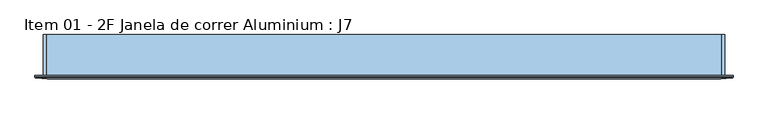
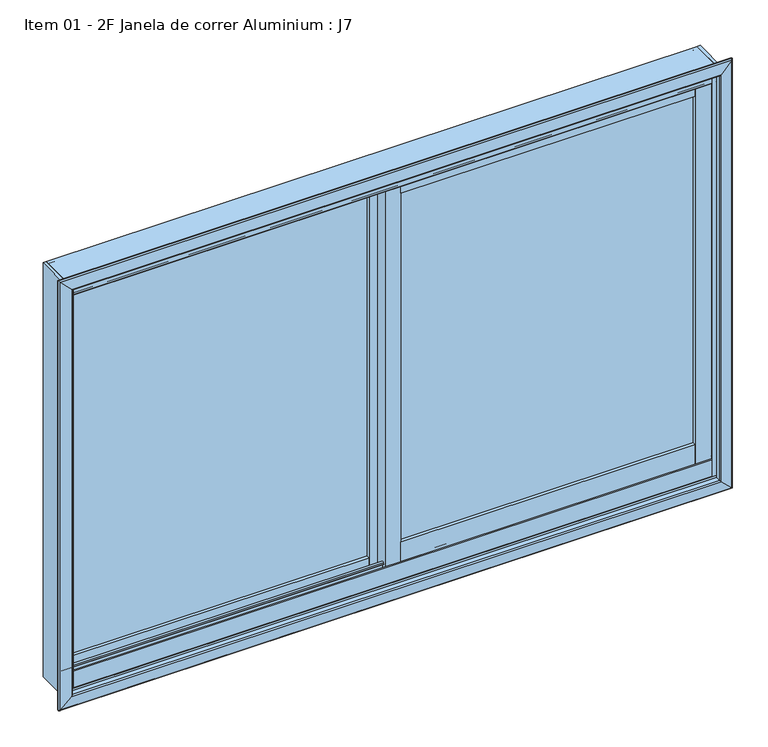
"""IFC4 building model written with IfcOpenShell, lengths in millimetres: window geometry, Item 01 - 2F Janela de correr Aluminium : J7."""

from ifc_helpers import new_model, si_unit, frame, origin, place, context, project, spatial, polyline, circle_curve, ellipse_curve, outline, extrude, source, transform, mapped, element, save
from ifc_brep_helpers import plane_surface, cylinder_surface, revolved_surface, advanced_brep


def item_01_2f_janela_de_correr_aluminium_j7_2dec2369(model_context):
    return source(origin(), model_context, "Body", "SolidModel", [
        extrude(outline(polyline([(-27.3998339, -10.3), (-27.3998339, -14.3), (-704.750983, -14.3), (-704.750983, -10.3), (-27.3998339, -10.3)])), frame((0.0, 0.0, 857.0), z_axis=(0.0, 0.0, 1.0), x_axis=(1.0, 0.0, 0.0)), (0.0, 0.0, 1.0), 880.5),
        extrude(outline(polyline([(27.2998339, -45.9), (27.2998339, -41.9), (698.868646, -41.9), (698.868646, -45.9), (27.2998339, -45.9)])), frame((0.0, 0.0, 895.5), z_axis=(0.0, 0.0, 1.0), x_axis=(1.0, 0.0, 0.0)), (0.0, 0.0, 1.0), 842.0),
        extrude(outline(polyline([(698.868646, -33.9), (698.868646, -53.9), (27.2998339, -53.9), (27.2998339, -33.9), (698.868646, -33.9)])), frame((0.0, 0.0, 847.9996573), z_axis=(0.0, 0.0, 1.0), x_axis=(1.0, 0.0, 0.0)), (0.0, 0.0, 1.0), 47.5003427),
        extrude(outline(polyline([(698.868646, -33.9), (698.868646, -53.9), (27.2998339, -53.9), (27.2998339, -33.9), (698.868646, -33.9)])), frame((0.0, 0.0, 1737.4996573), z_axis=(0.0, 0.0, 1.0), x_axis=(1.0, 0.0, 0.0)), (0.0, 0.0, 1.0), 34.5),
        extrude(outline(polyline([(-27.3998339, -2.3), (-27.3998339, -22.3), (-704.750983, -22.3), (-704.750983, -2.3), (-27.3998339, -2.3)])), frame((0.0, 0.0, 821.0), z_axis=(0.0, 0.0, 1.0), x_axis=(1.0, 0.0, 0.0)), (0.0, 0.0, 1.0), 36.0),
        extrude(outline(polyline([(-27.3998339, -2.3), (-27.3998339, -22.3), (-704.750983, -22.3), (-704.750983, -2.3), (-27.3998339, -2.3)])), frame((0.0, 0.0, 1737.5), z_axis=(0.0, 0.0, 1.0), x_axis=(1.0, 0.0, 0.0)), (0.0, 0.0, 1.0), 34.5),
        extrude(outline(polyline([(-704.750983, -22.3), (-743.0, -22.3), (-743.0, -2.3), (-704.750983, -2.3), (-704.750983, -22.3)])), frame((0.0, 0.0, 821.0), z_axis=(0.0, 0.0, 1.0), x_axis=(1.0, 0.0, 0.0)), (0.0, 0.0, 1.0), 951.0),
        extrude(outline(polyline([(-27.3998339, -22.3), (-27.3998339, -2.3), (7.6001661, -2.3), (7.6001661, -33.9), (27.2998339, -33.9), (27.2998339, -53.9), (-7.6001661, -53.9), (-7.6001661, -22.3), (-27.3998339, -22.3)])), frame((0.0, 0.0, 821.0), z_axis=(0.0, 0.0, 1.0), x_axis=(1.0, 0.0, 0.0)), (0.0, 0.0, 1.0), 951.0),
        extrude(outline(polyline([(743.0, -53.9), (698.868646, -53.9), (698.868646, -33.9), (743.0, -33.9), (743.0, -53.9)])), frame((0.0, 0.0, 821.0), z_axis=(0.0, 0.0, 1.0), x_axis=(1.0, 0.0, 0.0)), (0.0, 0.0, 1.0), 951.0),
        advanced_brep(
        [(-742.5998339, 8.5620965, 810.2470077), (-742.5998339, 8.5620965, 801.4000436), (-742.5998339, 13.600001, 801.4000436), (-742.5998339, 13.600001, 807.4000364), (-742.5998339, 14.9999993, 807.4000364), (-742.5998339, 15.0, 800.0), (-742.5998339, -75.0, 800.0), (-742.5998339, -75.0, 807.4000364), (-742.5998339, -73.6000017, 807.4000364), (-742.5998339, -73.6000017, 801.3999983), (-742.5998339, -68.6000077, 801.3999983), (-742.5998339, -68.6000077, 815.5000406), (-742.5998339, -66.9001002, 815.5000406), (-742.5998339, -66.9002002, 855.4959852), (-742.5998339, -63.9002108, 855.4999745), (-742.5998339, -63.9002039, 852.9999952), (-742.5998339, -65.5001025, 852.0762974), (-742.5998339, -65.4999102, 840.5017467), (-742.5998339, -64.5522917, 839.4937615), (-742.5998339, -42.5000392, 838.337999), (-742.5998339, -42.5000392, 852.496362), (-742.5998339, -44.7000484, 852.496362), (-742.5998339, -44.7000484, 848.6999865), (-742.5998339, -46.1007067, 848.6999865), (-742.5998339, -46.1007067, 852.4947997), (-742.5998339, -41.099933, 852.4947997), (-742.5998339, -41.099933, 838.2646991), (-742.5998339, -39.464205, 838.1789418), (-742.5998339, -35.731283, 834.861102), (-742.5998339, -32.3590937, 815.7367048), (-742.5998339, -29.9346709, 813.5917613), (-742.5998339, -14.4999651, 812.7828298), (-742.5998339, -14.4999651, 825.4891381), (-742.5998339, -9.4999947, 825.4999956), (-742.5998339, -9.4999711, 821.7000191), (-742.5998339, -10.8999694, 821.7000191), (-742.5998339, -10.8999694, 825.4963945), (-742.5998339, -13.0999825, 825.4963945), (-742.5998339, -13.0999825, 812.7095299), (-742.5998339, 7.2297593, 811.6448774), (742.5998339, 8.5620965, 810.2470077), (742.5998339, 8.5620965, 801.4000436), (742.5998339, 13.600001, 801.4000436), (742.5998339, 13.600001, 807.4000364), (742.5998339, 14.9999993, 807.4000364), (742.5998339, 15.0, 800.0), (742.5998339, -75.0, 800.0), (742.5998339, -75.0, 807.4000364), (742.5998339, -73.6000017, 807.4000364), (742.5998339, -73.6000017, 801.3999983), (742.5998339, -68.6000077, 801.3999983), (742.5998339, -68.6000077, 815.5000406), (742.5998339, -66.9001002, 815.5000406), (742.5998339, -66.9002002, 855.4959852), (742.5998339, -63.9002108, 855.4999745), (742.5998339, -63.9002039, 852.9999952), (742.5998339, -65.5001025, 852.0762974), (742.5998339, -65.4999102, 840.5017467), (742.5998339, -64.5522917, 839.4937615), (742.5998339, -42.5000392, 838.337999), (742.5998339, -42.5000392, 852.496362), (742.5998339, -44.7000484, 852.496362), (742.5998339, -44.7000484, 848.6999865), (742.5998339, -46.1007067, 848.6999865), (742.5998339, -46.1007067, 852.4947997), (742.5998339, -41.099933, 852.4947997), (742.5998339, -41.099933, 838.2646991), (742.5998339, -39.464205, 838.1789418), (742.5998339, -35.731283, 834.861102), (742.5998339, -32.3590937, 815.7367048), (742.5998339, -29.9346709, 813.5917613), (742.5998339, -14.4999651, 812.7828298), (742.5998339, -14.4999651, 825.4891381), (742.5998339, -9.4999947, 825.4999956), (742.5998339, -9.4999711, 821.7000191), (742.5998339, -10.8999694, 821.7000191), (742.5998339, -10.8999694, 825.4963945), (742.5998339, -13.0999825, 825.4963945), (742.5998339, -13.0999825, 812.7095299), (742.5998339, 7.2297593, 811.6448774)],
        [
            (0, 1),
            (1, 2),
            (2, 3),
            (3, 4),
            (4, 5),
            (5, 6),
            (6, 7),
            (7, 8),
            (8, 9),
            (9, 10),
            (10, 11),
            (11, 12),
            (12, 13),
            (13, 14, circle_curve(frame((-742.5998339, -65.4002082, 855.4999743), z_axis=(-1.0, 0.0, 0.0), x_axis=(0.0, 0.0, 1.0)), 1.4999974)),
            (14, 15),
            (15, 16),
            (16, 17),
            (17, 18, circle_curve(frame((-742.5998339, -64.4999552, 840.4923898), z_axis=(1.0, 0.0, 0.0), x_axis=(0.0, 0.0, 1.0)), 0.9999988)),
            (18, 19),
            (19, 20),
            (20, 21, circle_curve(frame((-742.5998339, -43.6000438, 852.496362), z_axis=(1.0, 0.0, 0.0), x_axis=(0.0, 0.0, 1.0)), 1.1000046)),
            (21, 22),
            (22, 23, circle_curve(frame((-742.5998339, -45.4003775, 848.6999865), z_axis=(-1.0, 0.0, 0.0), x_axis=(0.0, 0.0, 1.0)), 0.7003292)),
            (23, 24),
            (24, 25, circle_curve(frame((-742.5998339, -43.6003199, 852.4947997), z_axis=(-1.0, 0.0, 0.0), x_axis=(0.0, 0.0, 1.0)), 2.5003869)),
            (25, 26),
            (26, 27),
            (27, 28, circle_curve(frame((-742.5998339, -39.6736275, 834.1844326), z_axis=(-1.0, 0.0, 0.0), x_axis=(0.0, 0.0, 1.0)), 3.9999952)),
            (28, 29),
            (29, 30, circle_curve(frame((-742.5998339, -29.7985976, 816.188195), z_axis=(1.0, 0.0, 0.0), x_axis=(0.0, 0.0, 1.0)), 2.5999969)),
            (30, 31),
            (31, 32),
            (32, 33, circle_curve(frame((-742.5998339, -11.9999917, 825.4999955), z_axis=(-1.0, 0.0, 0.0), x_axis=(0.0, 0.0, 1.0)), 2.499997)),
            (33, 34),
            (34, 35, circle_curve(frame((-742.5998339, -10.1999703, 821.7000191), z_axis=(-1.0, 0.0, 0.0), x_axis=(0.0, 0.0, 1.0)), 0.6999992)),
            (35, 36),
            (36, 37, circle_curve(frame((-742.5998339, -11.9999759, 825.4963945), z_axis=(1.0, 0.0, 0.0), x_axis=(0.0, 0.0, 1.0)), 1.1000065)),
            (37, 38),
            (38, 39),
            (39, 0, circle_curve(frame((-742.5998339, 7.1626152, 810.2470077), z_axis=(-1.0, 0.0, 0.0), x_axis=(0.0, 0.0, 1.0)), 1.3994814)),
            (0, 40),
            (40, 41),
            (41, 1),
            (41, 42),
            (42, 2),
            (42, 43),
            (43, 3),
            (43, 44),
            (44, 4),
            (44, 45),
            (45, 5),
            (45, 46),
            (46, 6),
            (46, 47),
            (47, 7),
            (47, 48),
            (48, 8),
            (48, 49),
            (49, 9),
            (49, 50),
            (50, 10),
            (50, 51),
            (51, 11),
            (51, 52),
            (52, 12),
            (52, 53),
            (53, 13),
            (53, 54, circle_curve(frame((742.5998339, -65.4002082, 855.4999743), z_axis=(-1.0, 0.0, 0.0), x_axis=(0.0, 0.0, 1.0)), 1.4999974)),
            (54, 14),
            (54, 55),
            (55, 15),
            (55, 56),
            (56, 16),
            (56, 57),
            (57, 17),
            (57, 58, circle_curve(frame((742.5998339, -64.4999552, 840.4923898), z_axis=(1.0, 0.0, 0.0), x_axis=(0.0, 0.0, 1.0)), 0.9999988)),
            (58, 18),
            (58, 59),
            (59, 19),
            (59, 60),
            (60, 20),
            (60, 61, circle_curve(frame((742.5998339, -43.6000438, 852.496362), z_axis=(1.0, 0.0, 0.0), x_axis=(0.0, 0.0, 1.0)), 1.1000046)),
            (61, 21),
            (61, 62),
            (62, 22),
            (62, 63, circle_curve(frame((742.5998339, -45.4003775, 848.6999865), z_axis=(-1.0, 0.0, 0.0), x_axis=(0.0, 0.0, 1.0)), 0.7003292)),
            (63, 23),
            (63, 64),
            (64, 24),
            (64, 65, circle_curve(frame((742.5998339, -43.6003199, 852.4947997), z_axis=(-1.0, 0.0, 0.0), x_axis=(0.0, 0.0, 1.0)), 2.5003869)),
            (65, 25),
            (65, 66),
            (66, 26),
            (66, 67),
            (67, 27),
            (67, 68, circle_curve(frame((742.5998339, -39.6736275, 834.1844326), z_axis=(-1.0, 0.0, 0.0), x_axis=(0.0, 0.0, 1.0)), 3.9999952)),
            (68, 28),
            (68, 69),
            (69, 29),
            (69, 70, circle_curve(frame((742.5998339, -29.7985976, 816.188195), z_axis=(1.0, 0.0, 0.0), x_axis=(0.0, 0.0, 1.0)), 2.5999969)),
            (70, 30),
            (70, 71),
            (71, 31),
            (71, 72),
            (72, 32),
            (72, 73, circle_curve(frame((742.5998339, -11.9999917, 825.4999955), z_axis=(-1.0, 0.0, 0.0), x_axis=(0.0, 0.0, 1.0)), 2.499997)),
            (73, 33),
            (73, 74),
            (74, 34),
            (74, 75, circle_curve(frame((742.5998339, -10.1999703, 821.7000191), z_axis=(-1.0, 0.0, 0.0), x_axis=(0.0, 0.0, 1.0)), 0.6999992)),
            (75, 35),
            (75, 76),
            (76, 36),
            (76, 77, circle_curve(frame((742.5998339, -11.9999759, 825.4963945), z_axis=(1.0, 0.0, 0.0), x_axis=(0.0, 0.0, 1.0)), 1.1000065)),
            (77, 37),
            (77, 78),
            (78, 38),
            (78, 79),
            (79, 39),
            (79, 40, circle_curve(frame((742.5998339, 7.1626152, 810.2470077), z_axis=(-1.0, 0.0, 0.0), x_axis=(0.0, 0.0, 1.0)), 1.3994814)),
        ],
        [
            plane_surface(frame((-742.5998339, -75.0, 1800.0), z_axis=(-1.0, 0.0, 0.0), x_axis=(0.0, -1.0, 0.0))),
            plane_surface(frame((-742.5998339, 8.5620965, 810.2470077), z_axis=(0.0, 1.0, 0.0), x_axis=(1.0, 0.0, 0.0))),
            plane_surface(frame((-742.5998339, 8.5620965, 801.4000436), z_axis=(0.0, 0.0, 1.0), x_axis=(1.0, 0.0, 0.0))),
            plane_surface(frame((-742.5998339, 13.600001, 801.4000436), z_axis=(0.0, -1.0, 0.0), x_axis=(1.0, 0.0, 0.0))),
            plane_surface(frame((-742.5998339, 13.600001, 807.4000364), z_axis=(0.0, 0.0, 1.0), x_axis=(1.0, 0.0, 0.0))),
            plane_surface(frame((-742.5998339, 14.9999993, 807.4000364), z_axis=(0.0, 0.999999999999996, 9.01305508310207e-08), x_axis=(1.0, 0.0, 0.0))),
            plane_surface(frame((-742.5998339, 15.0, 800.0), z_axis=(0.0, 0.0, -1.0), x_axis=(1.0, 0.0, 0.0))),
            plane_surface(frame((-742.5998339, -75.0, 800.0), z_axis=(0.0, -1.0, 0.0), x_axis=(1.0, 0.0, 0.0))),
            plane_surface(frame((-742.5998339, -75.0, 807.4000364), z_axis=(0.0, 0.0, 1.0), x_axis=(1.0, 0.0, 0.0))),
            plane_surface(frame((-742.5998339, -73.6000017, 807.4000364), z_axis=(0.0, 1.0, 0.0), x_axis=(1.0, 0.0, 0.0))),
            plane_surface(frame((-742.5998339, -73.6000017, 801.3999983), z_axis=(0.0, 0.0, 1.0), x_axis=(1.0, 0.0, 0.0))),
            plane_surface(frame((-742.5998339, -68.6000077, 801.3999983), z_axis=(0.0, -1.0, 0.0), x_axis=(1.0, 0.0, 0.0))),
            plane_surface(frame((-742.5998339, -68.6000077, 815.5000406), z_axis=(0.0, 0.0, 1.0), x_axis=(1.0, 0.0, 0.0))),
            plane_surface(frame((-742.5998339, -66.9001002, 815.5000406), z_axis=(0.0, -0.999999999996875, -2.50000000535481e-06), x_axis=(1.0, 0.0, 0.0))),
            cylinder_surface(frame((-742.5998339, -65.4002082, 855.4999743), z_axis=(-1.0, 0.0, 0.0), x_axis=(0.0, 0.0, 1.0)), 1.4999974),
            plane_surface(frame((-742.5998339, -63.9002039, 855.4999927), z_axis=(0.0, 1.0, 0.0), x_axis=(1.0, 0.0, 0.0))),
            plane_surface(frame((-742.5998339, -63.9002039, 852.9999952), z_axis=(0.0, 0.4999983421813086, -0.8660263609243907), x_axis=(1.0, 0.0, 0.0))),
            plane_surface(frame((-742.5998339, -65.5001025, 852.0762974), z_axis=(0.0, 0.9999999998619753, 1.6614737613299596e-05), x_axis=(1.0, 0.0, 0.0))),
            revolved_surface(polyline([(742.5998339, -64.4999552, 841.4923885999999), (-742.5998339, -64.4999552, 841.4923885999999)]), (-742.5998339, -64.4999552, 840.4923898), (1.0, 0.0, 0.0)),
            plane_surface(frame((-742.5998339, -64.5523119, 839.493712), z_axis=(0.0, 0.05233606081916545, 0.9986295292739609), x_axis=(1.0, 0.0, 0.0))),
            plane_surface(frame((-742.5998339, -42.5000392, 838.337999), z_axis=(0.0, -1.0, 0.0), x_axis=(1.0, 0.0, 0.0))),
            revolved_surface(polyline([(742.5998339, -43.6000438, 853.5963666), (-742.5998339, -43.6000438, 853.5963666)]), (-742.5998339, -43.6000438, 852.496362), (1.0, 0.0, 0.0)),
            plane_surface(frame((-742.5998339, -44.7000484, 852.496362), z_axis=(0.0, 1.0, 0.0), x_axis=(1.0, 0.0, 0.0))),
            cylinder_surface(frame((-742.5998339, -45.4003775, 848.6999865), z_axis=(-1.0, 0.0, 0.0), x_axis=(0.0, 0.0, 1.0)), 0.7003292),
            plane_surface(frame((-742.5998339, -46.1007067, 848.6999865), z_axis=(0.0, -1.0, 0.0), x_axis=(1.0, 0.0, 0.0))),
            cylinder_surface(frame((-742.5998339, -43.6003199, 852.4947997), z_axis=(-1.0, 0.0, 0.0), x_axis=(0.0, 0.0, 1.0)), 2.5003869),
            plane_surface(frame((-742.5998339, -41.099933, 852.4947997), z_axis=(0.0, 1.0, 0.0), x_axis=(1.0, 0.0, 0.0))),
            plane_surface(frame((-742.5998339, -41.099933, 838.2646991), z_axis=(0.0, 0.05235569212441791, 0.998628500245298), x_axis=(1.0, 0.0, 0.0))),
            cylinder_surface(frame((-742.5998339, -39.6736275, 834.1844326), z_axis=(-1.0, 0.0, 0.0), x_axis=(0.0, 0.0, 1.0)), 3.9999952),
            plane_surface(frame((-742.5998339, -35.731283, 834.861102), z_axis=(0.0, 0.9848073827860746, 0.17365027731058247), x_axis=(1.0, 0.0, 0.0))),
            revolved_surface(polyline([(742.5998339, -29.7985976, 818.7881918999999), (-742.5998339, -29.7985976, 818.7881918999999)]), (-742.5998339, -29.7985976, 816.188195), (1.0, 0.0, 0.0)),
            plane_surface(frame((-742.5998339, -29.9346464, 813.5917288), z_axis=(0.0, 0.052336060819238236, 0.9986295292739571), x_axis=(1.0, 0.0, 0.0))),
            plane_surface(frame((-742.5998339, -14.4999651, 812.7828298), z_axis=(0.0, -1.0, 0.0), x_axis=(1.0, 0.0, 0.0))),
            cylinder_surface(frame((-742.5998339, -11.9999917, 825.4999955), z_axis=(-1.0, 0.0, 0.0), x_axis=(0.0, 0.0, 1.0)), 2.499997),
            plane_surface(frame((-742.5998339, -9.4999711, 825.5000145), z_axis=(0.0, 1.0, 0.0), x_axis=(1.0, 0.0, 0.0))),
            cylinder_surface(frame((-742.5998339, -10.1999703, 821.7000191), z_axis=(-1.0, 0.0, 0.0), x_axis=(0.0, 0.0, 1.0)), 0.6999992),
            plane_surface(frame((-742.5998339, -10.8999694, 821.7000191), z_axis=(0.0, -1.0, 0.0), x_axis=(1.0, 0.0, 0.0))),
            revolved_surface(polyline([(742.5998339, -11.9999759, 826.5964009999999), (-742.5998339, -11.9999759, 826.5964009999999)]), (-742.5998339, -11.9999759, 825.4963945), (1.0, 0.0, 0.0)),
            plane_surface(frame((-742.5998339, -13.0999825, 825.4963945), z_axis=(0.0, 1.0, 0.0), x_axis=(1.0, 0.0, 0.0))),
            plane_surface(frame((-742.5998339, -13.0999825, 812.7095299), z_axis=(0.0, 0.052297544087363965, 0.9986315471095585), x_axis=(1.0, 0.0, 0.0))),
            cylinder_surface(frame((-742.5998339, 7.1626152, 810.2470077), z_axis=(-1.0, 0.0, 0.0), x_axis=(0.0, 0.0, 1.0)), 1.3994814),
            plane_surface(frame((742.5998339, -75.0, 1800.0), z_axis=(1.0, 0.0, 0.0), x_axis=(0.0, -1.0, 0.0))),
        ],
        [
            (0, [[1, 2, 3, 4, 5, 6, 7, 8, 9, 10, 11, 12, 13, 14, 15, 16, 17, 18, 19, 20, 21, 22, 23, 24, 25, 26, 27, 28, 29, 30, 31, 32, 33, 34, 35, 36, 37, 38, 39, 40]]),
            (1, [[-1, 41, 42, 43]]),
            (2, [[-2, -43, 44, 45]]),
            (3, [[-3, -45, 46, 47]]),
            (4, [[-4, -47, 48, 49]]),
            (5, [[-5, -49, 50, 51]]),
            (6, [[-6, -51, 52, 53]]),
            (7, [[-7, -53, 54, 55]]),
            (8, [[-8, -55, 56, 57]]),
            (9, [[-9, -57, 58, 59]]),
            (10, [[-10, -59, 60, 61]]),
            (11, [[-11, -61, 62, 63]]),
            (12, [[-12, -63, 64, 65]]),
            (13, [[-13, -65, 66, 67]]),
            (14, [[-14, -67, 68, 69]]),
            (15, [[-15, -69, 70, 71]]),
            (16, [[-16, -71, 72, 73]]),
            (17, [[-17, -73, 74, 75]]),
            (18, [[-18, -75, 76, 77]]),
            (19, [[-19, -77, 78, 79]]),
            (20, [[-20, -79, 80, 81]]),
            (21, [[-21, -81, 82, 83]]),
            (22, [[-22, -83, 84, 85]]),
            (23, [[-23, -85, 86, 87]]),
            (24, [[-24, -87, 88, 89]]),
            (25, [[-25, -89, 90, 91]]),
            (26, [[-26, -91, 92, 93]]),
            (27, [[-27, -93, 94, 95]]),
            (28, [[-28, -95, 96, 97]]),
            (29, [[-29, -97, 98, 99]]),
            (30, [[-30, -99, 100, 101]]),
            (31, [[-31, -101, 102, 103]]),
            (32, [[-32, -103, 104, 105]]),
            (33, [[-33, -105, 106, 107]]),
            (34, [[-34, -107, 108, 109]]),
            (35, [[-35, -109, 110, 111]]),
            (36, [[-36, -111, 112, 113]]),
            (37, [[-37, -113, 114, 115]]),
            (38, [[-38, -115, 116, 117]]),
            (39, [[-39, -117, 118, 119]]),
            (40, [[-40, -119, 120, -41]]),
            (41, [[-120, -118, -116, -114, -112, -110, -108, -106, -104, -102, -100, -98, -96, -94, -92, -90, -88, -86, -84, -82, -80, -78, -76, -74, -72, -70, -68, -66, -64, -62, -60, -58, -56, -54, -52, -50, -48, -46, -44, -42]]),
        ],
    ),
        advanced_brep(
        [(-742.5998339, -66.8990741, 1765.5), (-742.5998339, -66.8990741, 1784.5), (-742.5998339, -68.5994745, 1784.5), (-742.5998339, -68.5994745, 1798.6), (-742.5998339, -73.5994745, 1798.6), (-742.5998339, -73.5994745, 1792.6), (-742.5998339, -74.9994395, 1792.6), (-742.5998339, -74.9994395, 1800.0), (-742.5998339, 15.0005605, 1800.0), (-742.5998339, 15.0005605, 1792.6), (-742.5998339, 13.6005455, 1792.6), (-742.5998339, 13.6005455, 1798.6), (-742.5998339, 8.6005455, 1798.6), (-742.5998339, 8.6005455, 1784.5), (-742.5998339, 6.9005605, 1784.5), (-742.5998339, 6.9005605, 1761.0), (-742.5998339, 5.5005605, 1760.0834849), (-742.5998339, 5.5005605, 1784.5), (-742.5998339, -13.0994395, 1784.5), (-742.5998339, -13.0994395, 1766.4999475), (-742.5998339, -10.8994395, 1766.4999475), (-742.5998339, -10.8994395, 1770.298754), (-742.5998339, -9.4986209, 1770.298754), (-742.5998339, -9.4986209, 1766.4999475), (-742.5998339, -14.5002581, 1766.4999475), (-742.5998339, -14.5002581, 1784.5), (-742.5998339, -41.0986209, 1784.5), (-742.5998339, -41.0986209, 1766.499981), (-742.5998339, -46.1002581, 1766.499981), (-742.5998339, -46.1002581, 1770.2997289), (-742.5998339, -44.6994395, 1770.2997289), (-742.5998339, -44.6994395, 1766.499981), (-742.5998339, -42.4994395, 1766.499981), (-742.5998339, -42.4994395, 1784.5), (-742.5998339, -65.4994049, 1784.5), (-742.5998339, -65.4994049, 1768.9237013), (-742.5998339, -63.8998049, 1768.0002013), (-742.5998339, -63.8998049, 1765.5), (742.5998339, -66.8990741, 1765.5), (742.5998339, -63.8998049, 1765.5), (742.5998339, -63.8998049, 1768.0002013), (742.5998339, -65.4994049, 1768.9237013), (742.5998339, -65.4994049, 1784.5), (742.5998339, -42.4994395, 1784.5), (742.5998339, -42.4994395, 1766.499981), (742.5998339, -44.6994395, 1766.499981), (742.5998339, -44.6994395, 1770.2997289), (742.5998339, -46.1002581, 1770.2997289), (742.5998339, -46.1002581, 1766.499981), (742.5998339, -41.0986209, 1766.499981), (742.5998339, -41.0986209, 1784.5), (742.5998339, -14.5002581, 1784.5), (742.5998339, -14.5002581, 1766.4999475), (742.5998339, -9.4986209, 1766.4999475), (742.5998339, -9.4986209, 1770.298754), (742.5998339, -10.8994395, 1770.298754), (742.5998339, -10.8994395, 1766.4999475), (742.5998339, -13.0994395, 1766.4999475), (742.5998339, -13.0994395, 1784.5), (742.5998339, 5.5005605, 1784.5), (742.5998339, 5.5005605, 1760.0834849), (742.5998339, 6.9005605, 1761.0), (742.5998339, 6.9005605, 1784.5), (742.5998339, 8.6005455, 1784.5), (742.5998339, 8.6005455, 1798.6), (742.5998339, 13.6005455, 1798.6), (742.5998339, 13.6005455, 1792.6), (742.5998339, 15.0005605, 1792.6), (742.5998339, 15.0005605, 1800.0), (742.5998339, -74.9994395, 1800.0), (742.5998339, -74.9994395, 1792.6), (742.5998339, -73.5994745, 1792.6), (742.5998339, -73.5994745, 1798.6), (742.5998339, -68.5994745, 1798.6), (742.5998339, -68.5994745, 1784.5), (742.5998339, -66.8990741, 1784.5)],
        [
            (0, 1),
            (1, 2),
            (2, 3),
            (3, 4),
            (4, 5),
            (5, 6),
            (6, 7),
            (7, 8),
            (8, 9),
            (9, 10),
            (10, 11),
            (11, 12),
            (12, 13),
            (13, 14),
            (14, 15),
            (15, 16, circle_curve(frame((-742.5998339, 5.9005605, 1761.0), z_axis=(-1.0, 0.0, 0.0), x_axis=(0.0, 0.0, 1.0)), 1.0)),
            (16, 17),
            (17, 18),
            (18, 19),
            (19, 20, circle_curve(frame((-742.5998339, -11.9994395, 1766.4999475), z_axis=(1.0, 0.0, 0.0), x_axis=(0.0, 0.0, 1.0)), 1.1)),
            (20, 21),
            (21, 22, circle_curve(frame((-742.5998339, -10.1990302, 1770.298754), z_axis=(-1.0, 0.0, 0.0), x_axis=(0.0, 0.0, 1.0)), 0.7004093)),
            (22, 23),
            (23, 24, circle_curve(frame((-742.5998339, -11.9994395, 1766.4999475), z_axis=(-1.0, 0.0, 0.0), x_axis=(0.0, 0.0, 1.0)), 2.5008186)),
            (24, 25),
            (25, 26),
            (26, 27),
            (27, 28, circle_curve(frame((-742.5998339, -43.5994395, 1766.499981), z_axis=(-1.0, 0.0, 0.0), x_axis=(0.0, 0.0, 1.0)), 2.5008186)),
            (28, 29),
            (29, 30, circle_curve(frame((-742.5998339, -45.3998488, 1770.2997289), z_axis=(-1.0, 0.0, 0.0), x_axis=(0.0, 0.0, 1.0)), 0.7004093)),
            (30, 31),
            (31, 32, circle_curve(frame((-742.5998339, -43.5994395, 1766.499981), z_axis=(1.0, 0.0, 0.0), x_axis=(0.0, 0.0, 1.0)), 1.1)),
            (32, 33),
            (33, 34),
            (34, 35),
            (35, 36),
            (36, 37),
            (37, 0, circle_curve(frame((-742.5998339, -65.3994395, 1765.5), z_axis=(-1.0, 0.0, 0.0), x_axis=(0.0, 0.0, 1.0)), 1.4996346)),
            (38, 39, circle_curve(frame((742.5998339, -65.3994395, 1765.5), z_axis=(1.0, 0.0, 0.0), x_axis=(0.0, 0.0, 1.0)), 1.4996346)),
            (39, 40),
            (40, 41),
            (41, 42),
            (42, 43),
            (43, 44),
            (44, 45, circle_curve(frame((742.5998339, -43.5994395, 1766.499981), z_axis=(-1.0, 0.0, 0.0), x_axis=(0.0, 0.0, 1.0)), 1.1)),
            (45, 46),
            (46, 47, circle_curve(frame((742.5998339, -45.3998488, 1770.2997289), z_axis=(1.0, 0.0, 0.0), x_axis=(0.0, 0.0, 1.0)), 0.7004093)),
            (47, 48),
            (48, 49, circle_curve(frame((742.5998339, -43.5994395, 1766.499981), z_axis=(1.0, 0.0, 0.0), x_axis=(0.0, 0.0, 1.0)), 2.5008186)),
            (49, 50),
            (50, 51),
            (51, 52),
            (52, 53, circle_curve(frame((742.5998339, -11.9994395, 1766.4999475), z_axis=(1.0, 0.0, 0.0), x_axis=(0.0, 0.0, 1.0)), 2.5008186)),
            (53, 54),
            (54, 55, circle_curve(frame((742.5998339, -10.1990302, 1770.298754), z_axis=(1.0, 0.0, 0.0), x_axis=(0.0, 0.0, 1.0)), 0.7004093)),
            (55, 56),
            (56, 57, circle_curve(frame((742.5998339, -11.9994395, 1766.4999475), z_axis=(-1.0, 0.0, 0.0), x_axis=(0.0, 0.0, 1.0)), 1.1)),
            (57, 58),
            (58, 59),
            (59, 60),
            (60, 61, circle_curve(frame((742.5998339, 5.9005605, 1761.0), z_axis=(1.0, 0.0, 0.0), x_axis=(0.0, 0.0, 1.0)), 1.0)),
            (61, 62),
            (62, 63),
            (63, 64),
            (64, 65),
            (65, 66),
            (66, 67),
            (67, 68),
            (68, 69),
            (69, 70),
            (70, 71),
            (71, 72),
            (72, 73),
            (73, 74),
            (74, 75),
            (75, 38),
            (0, 38),
            (75, 1),
            (74, 2),
            (73, 3),
            (72, 4),
            (71, 5),
            (70, 6),
            (69, 7),
            (68, 8),
            (67, 9),
            (66, 10),
            (65, 11),
            (64, 12),
            (63, 13),
            (62, 14),
            (61, 15),
            (60, 16),
            (59, 17),
            (58, 18),
            (57, 19),
            (56, 20),
            (55, 21),
            (54, 22),
            (53, 23),
            (52, 24),
            (51, 25),
            (50, 26),
            (49, 27),
            (48, 28),
            (47, 29),
            (46, 30),
            (45, 31),
            (44, 32),
            (43, 33),
            (42, 34),
            (41, 35),
            (40, 36),
            (39, 37),
        ],
        [
            plane_surface(frame((-742.5998339, -75.0, 1800.0), z_axis=(-1.0, 0.0, 0.0), x_axis=(0.0, -1.0, 0.0))),
            plane_surface(frame((742.5998339, -75.0, 1800.0), z_axis=(1.0, 0.0, 0.0), x_axis=(0.0, -1.0, 0.0))),
            plane_surface(frame((-742.5998339, -66.8990741, 1765.5), z_axis=(0.0, -1.0, 0.0), x_axis=(1.0, 0.0, 0.0))),
            plane_surface(frame((-742.5998339, -66.8990741, 1784.5), z_axis=(0.0, 0.0, -1.0), x_axis=(1.0, 0.0, 0.0))),
            plane_surface(frame((-742.5998339, -68.5994745, 1784.5), z_axis=(0.0, -1.0, 0.0), x_axis=(1.0, 0.0, 0.0))),
            plane_surface(frame((-742.5998339, -68.5994745, 1798.6), z_axis=(0.0, 0.0, -1.0), x_axis=(1.0, 0.0, 0.0))),
            plane_surface(frame((-742.5998339, -73.5994745, 1798.6), z_axis=(0.0, 1.0, 0.0), x_axis=(1.0, 0.0, 0.0))),
            plane_surface(frame((-742.5998339, -73.5994745, 1792.6), z_axis=(0.0, 0.0, -1.0), x_axis=(1.0, 0.0, 0.0))),
            plane_surface(frame((-742.5998339, -74.9994395, 1792.6), z_axis=(0.0, -1.0, 0.0), x_axis=(1.0, 0.0, 0.0))),
            plane_surface(frame((-742.5998339, -74.9994395, 1800.0), z_axis=(0.0, 0.0, 1.0), x_axis=(1.0, 0.0, 0.0))),
            plane_surface(frame((-742.5998339, 15.0005605, 1800.0), z_axis=(0.0, 1.0, 0.0), x_axis=(1.0, 0.0, 0.0))),
            plane_surface(frame((-742.5998339, 15.0005605, 1792.6), z_axis=(0.0, 0.0, -1.0), x_axis=(1.0, 0.0, 0.0))),
            plane_surface(frame((-742.5998339, 13.6005455, 1792.6), z_axis=(0.0, -1.0, 0.0), x_axis=(1.0, 0.0, 0.0))),
            plane_surface(frame((-742.5998339, 13.6005455, 1798.6), z_axis=(0.0, 0.0, -1.0), x_axis=(1.0, 0.0, 0.0))),
            plane_surface(frame((-742.5998339, 8.6005455, 1798.6), z_axis=(0.0, 1.0, 0.0), x_axis=(1.0, 0.0, 0.0))),
            plane_surface(frame((-742.5998339, 8.6005455, 1784.5), z_axis=(0.0, 0.0, -1.0), x_axis=(1.0, 0.0, 0.0))),
            plane_surface(frame((-742.5998339, 6.9005605, 1784.5), z_axis=(0.0, 1.0, 0.0), x_axis=(1.0, 0.0, 0.0))),
            cylinder_surface(frame((-742.5998339, 5.9005605, 1761.0), z_axis=(-1.0, 0.0, 0.0), x_axis=(0.0, 0.0, 1.0)), 1.0),
            plane_surface(frame((-742.5998339, 5.5005605, 1760.0834849), z_axis=(0.0, -1.0, 0.0), x_axis=(1.0, 0.0, 0.0))),
            plane_surface(frame((-742.5998339, 5.5005605, 1784.5), z_axis=(0.0, 0.0, -1.0), x_axis=(1.0, 0.0, 0.0))),
            plane_surface(frame((-742.5998339, -13.0994395, 1784.5), z_axis=(0.0, 1.0, 0.0), x_axis=(1.0, 0.0, 0.0))),
            revolved_surface(polyline([(742.5998339, -11.9994395, 1767.5999474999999), (-742.5998339, -11.9994395, 1767.5999474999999)]), (-742.5998339, -11.9994395, 1766.4999475), (1.0, 0.0, 0.0)),
            plane_surface(frame((-742.5998339, -10.8994395, 1766.4999475), z_axis=(0.0, -1.0, 0.0), x_axis=(1.0, 0.0, 0.0))),
            cylinder_surface(frame((-742.5998339, -10.1990302, 1770.298754), z_axis=(-1.0, 0.0, 0.0), x_axis=(0.0, 0.0, 1.0)), 0.7004093),
            plane_surface(frame((-742.5998339, -9.4986209, 1770.298754), z_axis=(0.0, 1.0, 0.0), x_axis=(1.0, 0.0, 0.0))),
            cylinder_surface(frame((-742.5998339, -11.9994395, 1766.4999475), z_axis=(-1.0, 0.0, 0.0), x_axis=(0.0, 0.0, 1.0)), 2.5008186),
            plane_surface(frame((-742.5998339, -14.5002581, 1766.4999475), z_axis=(0.0, -1.0, 0.0), x_axis=(1.0, 0.0, 0.0))),
            plane_surface(frame((-742.5998339, -14.5002581, 1784.5), z_axis=(0.0, 0.0, -1.0), x_axis=(1.0, 0.0, 0.0))),
            plane_surface(frame((-742.5998339, -41.0986209, 1784.5), z_axis=(0.0, 1.0, 0.0), x_axis=(1.0, 0.0, 0.0))),
            cylinder_surface(frame((-742.5998339, -43.5994395, 1766.499981), z_axis=(-1.0, 0.0, 0.0), x_axis=(0.0, 0.0, 1.0)), 2.5008186),
            plane_surface(frame((-742.5998339, -46.1002581, 1766.499981), z_axis=(0.0, -1.0, 0.0), x_axis=(1.0, 0.0, 0.0))),
            cylinder_surface(frame((-742.5998339, -45.3998488, 1770.2997289), z_axis=(-1.0, 0.0, 0.0), x_axis=(0.0, 0.0, 1.0)), 0.7004093),
            plane_surface(frame((-742.5998339, -44.6994395, 1770.2997289), z_axis=(0.0, 1.0, 0.0), x_axis=(1.0, 0.0, 0.0))),
            revolved_surface(polyline([(742.5998339, -43.5994395, 1767.5999809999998), (-742.5998339, -43.5994395, 1767.5999809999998)]), (-742.5998339, -43.5994395, 1766.499981), (1.0, 0.0, 0.0)),
            plane_surface(frame((-742.5998339, -42.4994395, 1766.499981), z_axis=(0.0, -1.0, 0.0), x_axis=(1.0, 0.0, 0.0))),
            plane_surface(frame((-742.5998339, -42.4994395, 1784.5), z_axis=(0.0, 0.0, -1.0), x_axis=(1.0, 0.0, 0.0))),
            plane_surface(frame((-742.5998339, -65.4994049, 1784.5), z_axis=(0.0, 1.0, 0.0), x_axis=(1.0, 0.0, 0.0))),
            plane_surface(frame((-742.5998339, -65.4994049, 1768.9237013), z_axis=(0.0, 0.49998802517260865, 0.8660323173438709), x_axis=(1.0, 0.0, 0.0))),
            plane_surface(frame((-742.5998339, -63.8998049, 1768.0002013), z_axis=(0.0, 1.0, 0.0), x_axis=(1.0, 0.0, 0.0))),
            cylinder_surface(frame((-742.5998339, -65.3994395, 1765.5), z_axis=(-1.0, 0.0, 0.0), x_axis=(0.0, 0.0, 1.0)), 1.4996346),
        ],
        [
            (0, [[1, 2, 3, 4, 5, 6, 7, 8, 9, 10, 11, 12, 13, 14, 15, 16, 17, 18, 19, 20, 21, 22, 23, 24, 25, 26, 27, 28, 29, 30, 31, 32, 33, 34, 35, 36, 37, 38]]),
            (1, [[39, 40, 41, 42, 43, 44, 45, 46, 47, 48, 49, 50, 51, 52, 53, 54, 55, 56, 57, 58, 59, 60, 61, 62, 63, 64, 65, 66, 67, 68, 69, 70, 71, 72, 73, 74, 75, 76]]),
            (2, [[-1, 77, -76, 78]]),
            (3, [[-2, -78, -75, 79]]),
            (4, [[-3, -79, -74, 80]]),
            (5, [[-4, -80, -73, 81]]),
            (6, [[-5, -81, -72, 82]]),
            (7, [[-6, -82, -71, 83]]),
            (8, [[-7, -83, -70, 84]]),
            (9, [[-8, -84, -69, 85]]),
            (10, [[-9, -85, -68, 86]]),
            (11, [[-10, -86, -67, 87]]),
            (12, [[-11, -87, -66, 88]]),
            (13, [[-12, -88, -65, 89]]),
            (14, [[-13, -89, -64, 90]]),
            (15, [[-14, -90, -63, 91]]),
            (16, [[-15, -91, -62, 92]]),
            (17, [[-16, -92, -61, 93]]),
            (18, [[-17, -93, -60, 94]]),
            (19, [[-18, -94, -59, 95]]),
            (20, [[-19, -95, -58, 96]]),
            (21, [[-20, -96, -57, 97]]),
            (22, [[-21, -97, -56, 98]]),
            (23, [[-22, -98, -55, 99]]),
            (24, [[-23, -99, -54, 100]]),
            (25, [[-24, -100, -53, 101]]),
            (26, [[-25, -101, -52, 102]]),
            (27, [[-26, -102, -51, 103]]),
            (28, [[-27, -103, -50, 104]]),
            (29, [[-28, -104, -49, 105]]),
            (30, [[-29, -105, -48, 106]]),
            (31, [[-30, -106, -47, 107]]),
            (32, [[-31, -107, -46, 108]]),
            (33, [[-32, -108, -45, 109]]),
            (34, [[-33, -109, -44, 110]]),
            (35, [[-34, -110, -43, 111]]),
            (36, [[-35, -111, -42, 112]]),
            (37, [[-36, -112, -41, 113]]),
            (38, [[-37, -113, -40, 114]]),
            (39, [[-38, -114, -39, -77]]),
        ],
    ),
        extrude(outline(polyline([(-750.0, -75.0), (-750.0, 15.0005605), (-742.5998339, 15.0005605), (-742.5998339, 8.6005605), (-729.5998339, 8.6005605), (-729.5998339, 7.2005603), (-742.5998339, 7.2005603), (-742.5998339, -67.1994395), (-729.5998339, -67.1994395), (-729.5998339, -68.5994395), (-742.5998339, -68.5994395), (-742.5998339, -75.0), (-750.0, -75.0)])), frame((0.0, 0.0, 800.0), z_axis=(0.0, 0.0, 1.0), x_axis=(1.0, 0.0, 0.0)), (0.0, 0.0, 1.0), 1000.0),
        extrude(outline(polyline([(750.0, -75.0), (742.5998339, -75.0), (742.5998339, -68.5994395), (729.5998339, -68.5994395), (729.5998339, -67.1994395), (742.5998339, -67.1994395), (742.5998339, 7.2005603), (729.5998339, 7.2005603), (729.5998339, 8.6005605), (742.5998339, 8.6005605), (742.5998339, 15.0005605), (750.0, 15.0005605), (750.0, -75.0)])), frame((0.0, 0.0, 800.0), z_axis=(0.0, 0.0, 1.0), x_axis=(1.0, 0.0, 0.0)), (0.0, 0.0, 1.0), 1000.0),
        advanced_brep(
        [(766.6179787, -80.8032791, 783.3820213), (741.6179953, -82.990685, 808.3820047), (-741.6179953, -82.990685, 808.3820047), (-766.6179787, -80.8032791, 783.3820213), (768.9000454, -78.301595, 781.0999546), (-768.9000454, -78.301595, 781.0999546), (768.9000454, -75.0, 781.0999546), (-768.9000454, -75.0, 781.0999546), (767.8000705, -78.312794, 782.1999295), (767.8000705, -75.0, 782.1999295), (-767.8000705, -75.0, 782.1999295), (-767.8000705, -78.312794, 782.1999295), (766.5220991, -79.7074657, 783.4779009), (-766.5220991, -79.7074657, 783.4779009), (741.5051608, -81.896355, 808.4948392), (-741.5051608, -81.896355, 808.4948392), (740.0000742, -80.5100572, 809.9999258), (-740.0000742, -80.5100572, 809.9999258), (740.0000742, -69.0002188, 809.9999258), (-740.0000742, -69.0002188, 809.9999258), (738.9000871, -80.5001999, 811.0999129), (738.9000871, -69.0002188, 811.0999129), (-738.9000871, -69.0002188, 811.0999129), (-738.9000871, -80.5001999, 811.0999129), (-741.6179953, -82.990685, 1791.6179953), (-766.6179787, -80.8032791, 1816.6179787), (-768.9000454, -78.301595, 1818.9000454), (-768.9000454, -75.0, 1818.9000454), (-767.8000705, -75.0, 1817.8000705), (-767.8000705, -78.312794, 1817.8000705), (-766.5220991, -79.7074657, 1816.5220991), (-741.5051608, -81.896355, 1791.5051608), (-740.0000742, -80.5100572, 1790.0000742), (-740.0000742, -69.0002188, 1790.0000742), (-738.9000871, -69.0002188, 1788.9000871), (-738.9000871, -80.5001999, 1788.9000871), (741.6179953, -82.990685, 1791.6179953), (766.6179787, -80.8032791, 1816.6179787), (768.9000454, -78.301595, 1818.9000454), (768.9000454, -75.0, 1818.9000454), (767.8000705, -75.0, 1817.8000705), (767.8000705, -78.312794, 1817.8000705), (766.5220991, -79.7074657, 1816.5220991), (741.5051608, -81.896355, 1791.5051608), (740.0000742, -80.5100572, 1790.0000742), (740.0000742, -69.0002188, 1790.0000742), (738.9000871, -69.0002188, 1788.9000871), (738.9000871, -80.5001999, 1788.9000871)],
        [
            (0, 1),
            (1, 2),
            (2, 3),
            (3, 0),
            (4, 0, ellipse_curve(frame((766.4000705, -78.312794, 783.5999295), z_axis=(-0.7071067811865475, 0.0, -0.7071067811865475), x_axis=(0.7071067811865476, 0.0, -0.7071067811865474)), 3.5355339, 2.5)),
            (3, 5, ellipse_curve(frame((-766.4000705, -78.312794, 783.5999295), z_axis=(0.7071067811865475, 0.0, -0.7071067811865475), x_axis=(0.7071067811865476, 0.0, 0.7071067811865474)), 3.5355339, 2.5)),
            (5, 4),
            (6, 4),
            (5, 7),
            (7, 6),
            (8, 9),
            (9, 10),
            (10, 11),
            (11, 8),
            (12, 8, ellipse_curve(frame((766.4000705, -78.312794, 783.5999295), z_axis=(0.7071067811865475, 0.0, 0.7071067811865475), x_axis=(-0.7071067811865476, 0.0, 0.7071067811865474)), 1.979899, 1.4)),
            (11, 13, ellipse_curve(frame((-766.4000705, -78.312794, 783.5999295), z_axis=(-0.7071067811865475, 0.0, 0.7071067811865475), x_axis=(-0.7071067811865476, 0.0, -0.7071067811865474)), 1.979899, 1.4)),
            (13, 12),
            (14, 12),
            (13, 15),
            (15, 14),
            (16, 14, ellipse_curve(frame((741.4000916, -80.5002514, 808.5999084), z_axis=(0.7071067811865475, 0.0, 0.7071067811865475), x_axis=(-0.7071067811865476, 0.0, 0.7071067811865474)), 1.9799721, 1.4000517)),
            (15, 17, ellipse_curve(frame((-741.4000916, -80.5002514, 808.5999084), z_axis=(-0.7071067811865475, 0.0, 0.7071067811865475), x_axis=(-0.7071067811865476, 0.0, -0.7071067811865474)), 1.9799721, 1.4000517)),
            (17, 16),
            (18, 16),
            (17, 19),
            (19, 18),
            (20, 21),
            (21, 22),
            (22, 23),
            (23, 20),
            (1, 20, ellipse_curve(frame((741.4000871, -80.5001999, 808.5999129), z_axis=(-0.7071067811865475, 0.0, -0.7071067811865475), x_axis=(0.7071067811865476, 0.0, -0.7071067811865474)), 3.5355339, 2.5)),
            (23, 2, ellipse_curve(frame((-741.4000871, -80.5001999, 808.5999129), z_axis=(0.7071067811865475, 0.0, -0.7071067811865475), x_axis=(0.7071067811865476, 0.0, 0.7071067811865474)), 3.5355339, 2.5)),
            (2, 24),
            (24, 25),
            (25, 3),
            (25, 26, ellipse_curve(frame((-766.4000705, -78.312794, 1816.4000705), z_axis=(-0.7071067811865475, 0.0, -0.7071067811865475), x_axis=(0.7071067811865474, 0.0, -0.7071067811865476)), 3.5355339, 2.5)),
            (26, 5),
            (26, 27),
            (27, 7),
            (10, 28),
            (28, 29),
            (29, 11),
            (29, 30, ellipse_curve(frame((-766.4000705, -78.312794, 1816.4000705), z_axis=(0.7071067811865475, 0.0, 0.7071067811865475), x_axis=(-0.7071067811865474, 0.0, 0.7071067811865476)), 1.979899, 1.4)),
            (30, 13),
            (30, 31),
            (31, 15),
            (31, 32, ellipse_curve(frame((-741.4000916, -80.5002514, 1791.4000916), z_axis=(0.7071067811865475, 0.0, 0.7071067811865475), x_axis=(-0.7071067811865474, 0.0, 0.7071067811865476)), 1.9799721, 1.4000517)),
            (32, 17),
            (32, 33),
            (33, 19),
            (22, 34),
            (34, 35),
            (35, 23),
            (35, 24, ellipse_curve(frame((-741.4000871, -80.5001999, 1791.4000871), z_axis=(-0.7071067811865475, 0.0, -0.7071067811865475), x_axis=(0.7071067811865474, 0.0, -0.7071067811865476)), 3.5355339, 2.5)),
            (24, 36),
            (36, 37),
            (37, 25),
            (37, 38, ellipse_curve(frame((766.4000705, -78.312794, 1816.4000705), z_axis=(-0.7071067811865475, 0.0, 0.7071067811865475), x_axis=(-0.7071067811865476, 0.0, -0.7071067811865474)), 3.5355339, 2.5)),
            (38, 26),
            (38, 39),
            (39, 27),
            (28, 40),
            (40, 41),
            (41, 29),
            (41, 42, ellipse_curve(frame((766.4000705, -78.312794, 1816.4000705), z_axis=(0.7071067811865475, 0.0, -0.7071067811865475), x_axis=(0.7071067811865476, 0.0, 0.7071067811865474)), 1.979899, 1.4)),
            (42, 30),
            (42, 43),
            (43, 31),
            (43, 44, ellipse_curve(frame((741.4000916, -80.5002514, 1791.4000916), z_axis=(0.7071067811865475, 0.0, -0.7071067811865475), x_axis=(0.7071067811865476, 0.0, 0.7071067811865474)), 1.9799721, 1.4000517)),
            (44, 32),
            (44, 45),
            (45, 33),
            (34, 46),
            (46, 47),
            (47, 35),
            (47, 36, ellipse_curve(frame((741.4000871, -80.5001999, 1791.4000871), z_axis=(-0.7071067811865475, 0.0, 0.7071067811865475), x_axis=(-0.7071067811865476, 0.0, -0.7071067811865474)), 3.5355339, 2.5)),
            (36, 1),
            (0, 37),
            (4, 38),
            (6, 39),
            (9, 40),
            (8, 41),
            (12, 42),
            (14, 43),
            (16, 44),
            (18, 45),
            (21, 46),
            (20, 47),
        ],
        [
            plane_surface(frame((741.6179953, -82.990685, 808.3820047), z_axis=(0.0, -0.9961940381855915, -0.08716328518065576), x_axis=(-1.0, 0.0, 0.0))),
            cylinder_surface(frame((750.0, -78.312794, 783.5999295), z_axis=(1.0, 0.0, 0.0), x_axis=(0.0, 0.0, 1.0)), 2.5),
            plane_surface(frame((768.9000454, -78.301595, 781.0999546), z_axis=(0.0, 0.0, -1.0), x_axis=(-1.0, 0.0, 0.0))),
            plane_surface(frame((767.8000705, -75.0, 782.1999295), z_axis=(0.0, 0.0, 1.0), x_axis=(-1.0, 0.0, 0.0))),
            revolved_surface(polyline([(-767.8000705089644, -78.312794, 784.9999295), (767.8000705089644, -78.312794, 784.9999295)]), (750.0, -78.312794, 783.5999295), (-1.0, 0.0, 0.0)),
            plane_surface(frame((766.5220991, -79.7074657, 783.4779009), z_axis=(0.0, 0.9961940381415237, 0.08716328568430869), x_axis=(-1.0, 0.0, 0.0))),
            revolved_surface(polyline([(-742.8001432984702, -80.5002514, 809.9999601), (742.8001432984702, -80.5002514, 809.9999601)]), (750.0, -80.5002514, 808.5999084), (-1.0, 0.0, 0.0)),
            plane_surface(frame((740.0000742, -80.5100572, 809.9999258), z_axis=(0.0, 0.0, -1.0), x_axis=(-1.0, 0.0, 0.0))),
            plane_surface(frame((738.9000871, -69.0002188, 811.0999129), z_axis=(0.0, 0.0, 1.0), x_axis=(-1.0, 0.0, 0.0))),
            cylinder_surface(frame((750.0, -80.5001999, 808.5999129), z_axis=(1.0, 0.0, 0.0), x_axis=(0.0, 0.0, 1.0)), 2.5),
            plane_surface(frame((-741.6179953, -82.990685, 808.3820047), z_axis=(-0.08716328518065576, -0.9961940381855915, 0.0), x_axis=(0.0, 0.0, 1.0))),
            cylinder_surface(frame((-766.4000705, -78.312794, 800.0), z_axis=(0.0, 0.0, -1.0), x_axis=(1.0, 0.0, 0.0)), 2.5),
            plane_surface(frame((-768.9000454, -78.301595, 781.0999546), z_axis=(-1.0, 0.0, 0.0), x_axis=(0.0, 0.0, 1.0))),
            plane_surface(frame((-767.8000705, -75.0, 782.1999295), z_axis=(1.0, 0.0, 0.0), x_axis=(0.0, 0.0, 1.0))),
            revolved_surface(polyline([(-765.0000705, -78.312794, 1817.8000705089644), (-765.0000705, -78.312794, 782.1999294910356)]), (-766.4000705, -78.312794, 800.0), (0.0, 0.0, 1.0)),
            plane_surface(frame((-766.5220991, -79.7074657, 783.4779009), z_axis=(0.08716328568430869, 0.9961940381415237, 0.0), x_axis=(0.0, 0.0, 1.0))),
            revolved_surface(polyline([(-740.0000399, -80.5002514, 1792.8001432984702), (-740.0000399, -80.5002514, 807.1998567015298)]), (-741.4000916, -80.5002514, 800.0), (0.0, 0.0, 1.0)),
            plane_surface(frame((-740.0000742, -80.5100572, 809.9999258), z_axis=(-1.0, 0.0, 0.0), x_axis=(0.0, 0.0, 1.0))),
            plane_surface(frame((-738.9000871, -69.0002188, 811.0999129), z_axis=(1.0, 0.0, 0.0), x_axis=(0.0, 0.0, 1.0))),
            cylinder_surface(frame((-741.4000871, -80.5001999, 800.0), z_axis=(0.0, 0.0, -1.0), x_axis=(1.0, 0.0, 0.0)), 2.5),
            plane_surface(frame((-741.6179953, -82.990685, 1791.6179953), z_axis=(0.0, -0.9961940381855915, 0.08716328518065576), x_axis=(1.0, 0.0, 0.0))),
            cylinder_surface(frame((-750.0, -78.312794, 1816.4000705), z_axis=(-1.0, 0.0, 0.0), x_axis=(0.0, 0.0, -1.0)), 2.5),
            plane_surface(frame((-768.9000454, -78.301595, 1818.9000454), z_axis=(0.0, 0.0, 1.0), x_axis=(1.0, 0.0, 0.0))),
            plane_surface(frame((-767.8000705, -75.0, 1817.8000705), z_axis=(0.0, 0.0, -1.0), x_axis=(1.0, 0.0, 0.0))),
            revolved_surface(polyline([(767.8000705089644, -78.312794, 1815.0000705), (-767.8000705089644, -78.312794, 1815.0000705)]), (-750.0, -78.312794, 1816.4000705), (1.0, 0.0, 0.0)),
            plane_surface(frame((-766.5220991, -79.7074657, 1816.5220991), z_axis=(0.0, 0.9961940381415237, -0.08716328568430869), x_axis=(1.0, 0.0, 0.0))),
            revolved_surface(polyline([(742.8001432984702, -80.5002514, 1790.0000399), (-742.8001432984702, -80.5002514, 1790.0000399)]), (-750.0, -80.5002514, 1791.4000916), (1.0, 0.0, 0.0)),
            plane_surface(frame((-740.0000742, -80.5100572, 1790.0000742), z_axis=(0.0, 0.0, 1.0), x_axis=(1.0, 0.0, 0.0))),
            plane_surface(frame((-738.9000871, -69.0002188, 1788.9000871), z_axis=(0.0, 0.0, -1.0), x_axis=(1.0, 0.0, 0.0))),
            cylinder_surface(frame((-750.0, -80.5001999, 1791.4000871), z_axis=(-1.0, 0.0, 0.0), x_axis=(0.0, 0.0, -1.0)), 2.5),
            plane_surface(frame((741.6179953, -82.990685, 1791.6179953), z_axis=(0.08716328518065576, -0.9961940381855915, 0.0), x_axis=(0.0, 0.0, -1.0))),
            cylinder_surface(frame((766.4000705, -78.312794, 1800.0), z_axis=(0.0, 0.0, 1.0), x_axis=(-1.0, 0.0, 0.0)), 2.5),
            plane_surface(frame((768.9000454, -78.301595, 1818.9000454), z_axis=(1.0, 0.0, 0.0), x_axis=(0.0, 0.0, -1.0))),
            plane_surface(frame((768.9000454, -75.0, 1818.9000454), z_axis=(0.0, 1.0, 0.0), x_axis=(0.0, 0.0, -1.0))),
            plane_surface(frame((767.8000705, -75.0, 1817.8000705), z_axis=(-1.0, 0.0, 0.0), x_axis=(0.0, 0.0, -1.0))),
            revolved_surface(polyline([(765.0000705, -78.312794, 782.1999294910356), (765.0000705, -78.312794, 1817.8000705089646)]), (766.4000705, -78.312794, 1800.0), (0.0, 0.0, -1.0)),
            plane_surface(frame((766.5220991, -79.7074657, 1816.5220991), z_axis=(-0.08716328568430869, 0.9961940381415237, 0.0), x_axis=(0.0, 0.0, -1.0))),
            revolved_surface(polyline([(740.0000399, -80.5002514, 807.1998567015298), (740.0000399, -80.5002514, 1792.8001432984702)]), (741.4000916, -80.5002514, 1800.0), (0.0, 0.0, -1.0)),
            plane_surface(frame((740.0000742, -80.5100572, 1790.0000742), z_axis=(1.0, 0.0, 0.0), x_axis=(0.0, 0.0, -1.0))),
            plane_surface(frame((740.0000742, -69.0002188, 1790.0000742), z_axis=(0.0, 1.0, 0.0), x_axis=(0.0, 0.0, -1.0))),
            plane_surface(frame((738.9000871, -69.0002188, 1788.9000871), z_axis=(-1.0, 0.0, 0.0), x_axis=(0.0, 0.0, -1.0))),
            cylinder_surface(frame((741.4000871, -80.5001999, 1800.0), z_axis=(0.0, 0.0, 1.0), x_axis=(-1.0, 0.0, 0.0)), 2.5),
        ],
        [
            (0, [[1, 2, 3, 4]]),
            (1, [[5, -4, 6, 7]]),
            (2, [[8, -7, 9, 10]]),
            (3, [[11, 12, 13, 14]]),
            (4, [[15, -14, 16, 17]]),
            (5, [[18, -17, 19, 20]]),
            (6, [[21, -20, 22, 23]]),
            (7, [[24, -23, 25, 26]]),
            (8, [[27, 28, 29, 30]]),
            (9, [[31, -30, 32, -2]]),
            (10, [[-3, 33, 34, 35]]),
            (11, [[-6, -35, 36, 37]]),
            (12, [[-9, -37, 38, 39]]),
            (13, [[-13, 40, 41, 42]]),
            (14, [[-16, -42, 43, 44]]),
            (15, [[-19, -44, 45, 46]]),
            (16, [[-22, -46, 47, 48]]),
            (17, [[-25, -48, 49, 50]]),
            (18, [[-29, 51, 52, 53]]),
            (19, [[-32, -53, 54, -33]]),
            (20, [[-34, 55, 56, 57]]),
            (21, [[-36, -57, 58, 59]]),
            (22, [[-38, -59, 60, 61]]),
            (23, [[-41, 62, 63, 64]]),
            (24, [[-43, -64, 65, 66]]),
            (25, [[-45, -66, 67, 68]]),
            (26, [[-47, -68, 69, 70]]),
            (27, [[-49, -70, 71, 72]]),
            (28, [[-52, 73, 74, 75]]),
            (29, [[-54, -75, 76, -55]]),
            (30, [[-56, 77, -1, 78]]),
            (31, [[-58, -78, -5, 79]]),
            (32, [[-60, -79, -8, 80]]),
            (33, [[-39, -61, -80, -10], [81, -62, -40, -12]]),
            (34, [[-63, -81, -11, 82]]),
            (35, [[-65, -82, -15, 83]]),
            (36, [[-67, -83, -18, 84]]),
            (37, [[-69, -84, -21, 85]]),
            (38, [[-71, -85, -24, 86]]),
            (39, [[-50, -72, -86, -26], [87, -73, -51, -28]]),
            (40, [[-74, -87, -27, 88]]),
            (41, [[-76, -88, -31, -77]]),
        ],
    ),
    ])


if __name__ == "__main__":
    model = new_model("IFC4")
    model_context = context("Model", 3, world=origin())
    ifc_project = project(units=[si_unit("LENGTHUNIT", "METRE", prefix="MILLI")], contexts=[model_context])
    site = spatial("IfcSite", under=ifc_project)
    building = spatial("IfcBuilding", under=site)
    placement = place(None, origin())
    item_01_2f_janela_de_correr_aluminium_j7_shape = item_01_2f_janela_de_correr_aluminium_j7_2dec2369(model_context)
    element("IfcWindow", 1, ObjectType="Item 01 - 2F Janela de correr Aluminium : J7", at=placement, inside=building, context=model_context, shape_type="MappedRepresentation", body=[
        mapped(item_01_2f_janela_de_correr_aluminium_j7_shape, transform((0.0, 0.0, 0.0), x_axis=(1.0, 0.0, 0.0), y_axis=(0.0, 1.0, 0.0), z_axis=(0.0, 0.0, 1.0))),
    ])
    save(model, "model.ifc")
